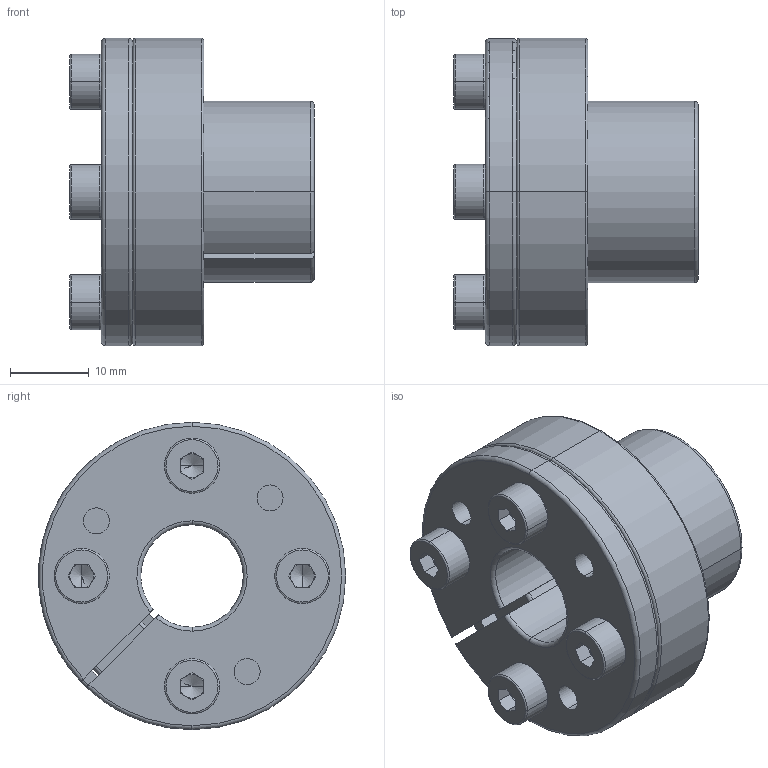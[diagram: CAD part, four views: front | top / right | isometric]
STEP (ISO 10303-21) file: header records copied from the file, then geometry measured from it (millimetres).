
FILE_DESCRIPTION (( 'STEP AP203' ), '1' );
FILE_NAME ('SAPL-T-13-23.STEP', '2016-05-04T07:23:31', ( '' ), ( '' ), 'SwSTEP 2.0', 'SolidWorks 2015', '' );
FILE_SCHEMA (( 'CONFIG_CONTROL_DESIGN' ));
Length unit declared in the file: millimetre
Products named in the file (1): SAPL-T-13-23
Bounding box: 31 x 39 x 39 mm (x, y, z)
Volume: 16251.6 mm3; surface area: 10464.1 mm2
Topology: 1 solids, 1 shells, 223 faces, 533 edges, 318 vertices
Faces by surface type: plane 72, cylinder 68, torus 61, cone 22
Entity records: 6621 total; most frequent: DIRECTION 1234, CARTESIAN_POINT 1213, ORIENTED_EDGE 1050, EDGE_CURVE 525, AXIS2_PLACEMENT_3D 515, VERTEX_POINT 318, CIRCLE 291, EDGE_LOOP 255
